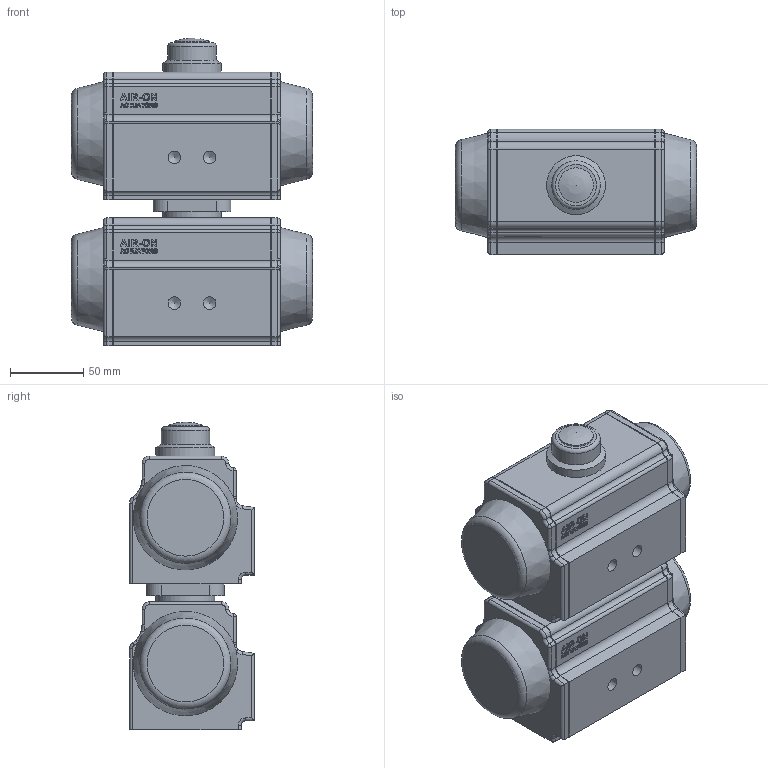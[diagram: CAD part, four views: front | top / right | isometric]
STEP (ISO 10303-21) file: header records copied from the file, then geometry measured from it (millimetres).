
FILE_DESCRIPTION( ( 'Unknown' ), '1' );
FILE_NAME( 'J:/Muud/ROOTSI BPS 3D vidinad/Kuulkraanid/Roostevaba kuulkraanid/Ball valve BPS 2411/Ball valve with pneumatic actuator BPS/STEP formaat/BPS 2411032P ball valve DN32.stp', 'Unknown', ( 'Unknown' ), ( 'Unknown' ), 'PSStep 10.1', 'Unknown', ' ' );
FILE_SCHEMA( ( 'AUTOMOTIVE_DESIGN { 1 0 10303 214 1 1 1 1 }' ) );
Length unit declared in the file: millimetre
Products named in the file (5): Assem1; BPS 2411032 ball valve DN32; BPS 8300063DA-SR pneumatic actuator
Bounding box: 164 x 85 x 209.2 mm (x, y, z)
Volume: 2259127.8 mm3; surface area: 259184.7 mm2
Topology: 8 solids, 8 shells, 906 faces, 2262 edges, 1474 vertices
Faces by surface type: plane 344, extrusion 202, cylinder 186, bspline 98, torus 42, cone 28, sphere 6
Full cylindrical faces by diameter (mm): 4.917 x8, 6.647 x8, 8.566 x4, 23.5 x2, 27 x2, 32 x2, 33 x2, 35 x2, 38.952 x4, 40 x2, 62 x2
Entity records: 22003 total; most frequent: CARTESIAN_POINT 8637, ORIENTED_EDGE 2106, DIRECTION 1534, EDGE_CURVE 1053, VERTEX_POINT 720, EDGE_LOOP 565, VECTOR 546, B_SPLINE_CURVE_WITH_KNOTS 523
